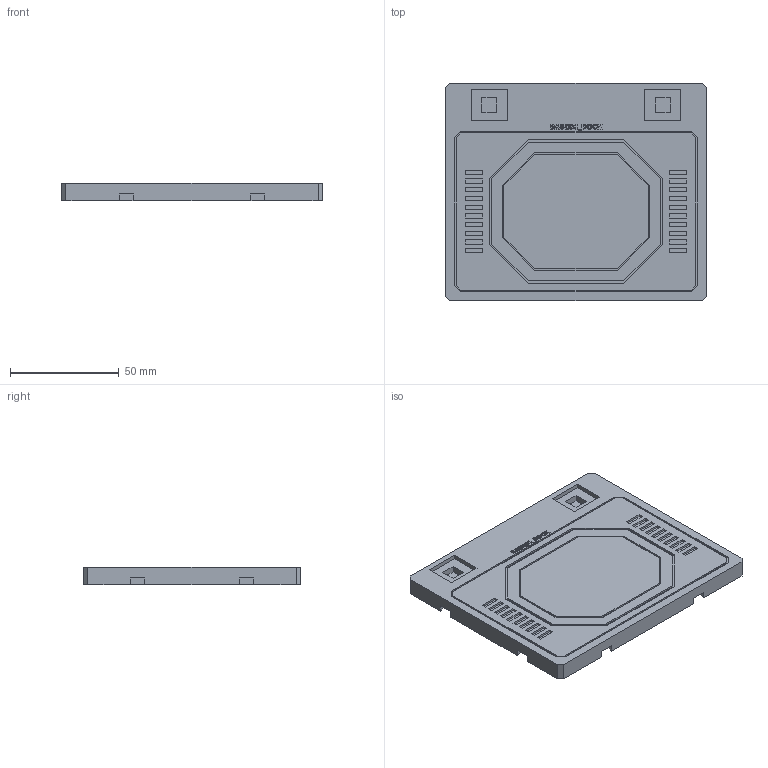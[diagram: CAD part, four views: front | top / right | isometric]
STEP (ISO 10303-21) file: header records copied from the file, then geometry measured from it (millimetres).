
FILE_DESCRIPTION(('Open CASCADE Model'),'2;1');
FILE_NAME('Open CASCADE Shape Model','2026-10-02T13:48:49',('Author'),( 'Open CASCADE'),'Open CASCADE STEP processor 7.8','Open CASCADE 7.8' ,'Unknown');
FILE_SCHEMA(('AUTOMOTIVE_DESIGN { 1 0 10303 214 1 1 1 1 }'));
Length unit declared in the file: millimetre
Products named in the file (1): Open CASCADE STEP translator 7.8 6
Bounding box: 120 x 100 x 8 mm (x, y, z)
Volume: 91550.7 mm3; surface area: 30101.2 mm2
Topology: 1 solids, 1 shells, 423 faces, 1119 edges, 746 vertices
Faces by surface type: plane 323, extrusion 100
Entity records: 27138 total; most frequent: CARTESIAN_POINT 5959, DIRECTION 3273, VECTOR 2625, LINE 2525, ORIENTED_EDGE 2238, PCURVE 2238, DEFINITIONAL_REPRESENTATION 2238, EDGE_CURVE 1119
